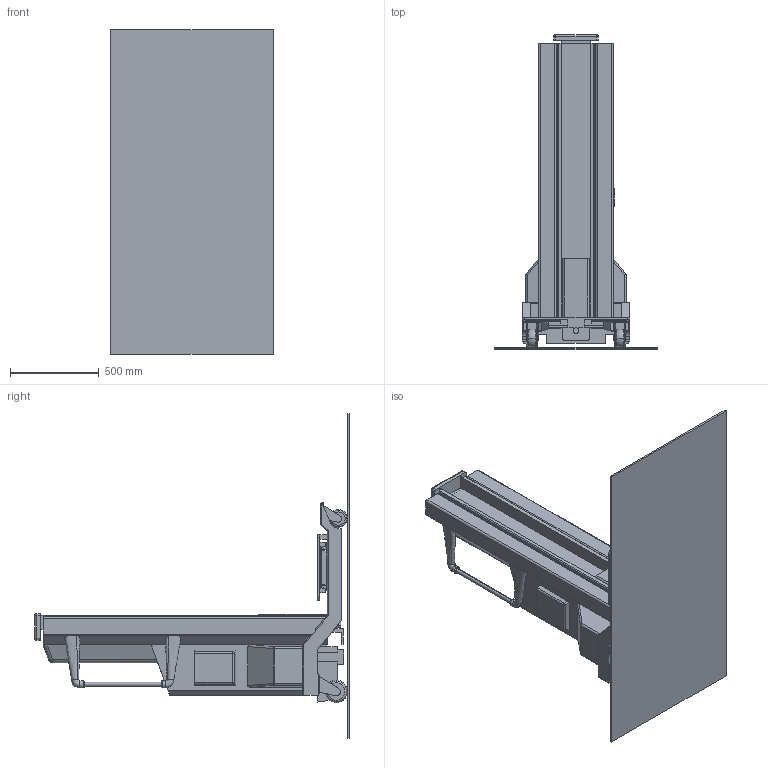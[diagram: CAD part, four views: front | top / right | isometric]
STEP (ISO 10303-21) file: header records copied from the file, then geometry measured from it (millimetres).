
FILE_DESCRIPTION (( 'STEP AP203' ), '1' );
FILE_NAME ('Simplified_SL-500X_Full_Down_Position_10-27-2023.STEP', '2023-10-27T22:13:18', ( '' ), ( '' ), 'SwSTEP 2.0', 'SolidWorks 2021', '' );
FILE_SCHEMA (( 'CONFIG_CONTROL_DESIGN' ));
Length unit declared in the file: millimetre
Products named in the file (12): RT-23177 Floor Tile, 36x72in; RT-23167 Assy, Simplified Base, SL500X; RT-23168 Simplified Base Frame, SL500X; RT-23172 Simplified Caster, 5inch; RT-23165 Simplified Inner Column, SL500X; Simplified_SL-500X_Full_Down_Position_10-27-2023; RT-23176 Assy, Simplified Side Loader Platform_Center; RT-23166 Simplified Outer Column, SL500X; RT-23171 Simplified Caster, 4inch; RT-23174 Platform Frame, Simplified, Side Loader; RT-23169 Simplified Sheet Metal and Covers, SL500X; RT-23175 Platform Surface, Simplified, Side Loader
Assembly tree (13 placements, depth 3):
  Simplified_SL-500X_Full_Down_Position_10-27-2023
    RT-23167 Assy, Simplified Base, SL500X
      RT-23168 Simplified Base Frame, SL500X
      RT-23172 Simplified Caster, 5inch  x2
      RT-23171 Simplified Caster, 4inch  x2
      RT-23177 Floor Tile, 36x72in
    RT-23166 Simplified Outer Column, SL500X
    RT-23165 Simplified Inner Column, SL500X
    RT-23176 Assy, Simplified Side Loader Platform_Center
      RT-23174 Platform Frame, Simplified, Side Loader
      RT-23175 Platform Surface, Simplified, Side Loader
    RT-23169 Simplified Sheet Metal and Covers, SL500X
Bounding box: 914.4 x 1772.4 x 1828.8 mm (x, y, z)
Volume: 237968788.5 mm3; surface area: 12081029.4 mm2
Topology: 11 solids, 11 shells, 570 faces, 1474 edges, 926 vertices
Faces by surface type: plane 344, cylinder 162, torus 32, sphere 24, bspline 8
Entity records: 18826 total; most frequent: CARTESIAN_POINT 4892, ORIENTED_EDGE 2652, DIRECTION 2628, EDGE_CURVE 1326, LINE 884, VECTOR 884, AXIS2_PLACEMENT_3D 872, VERTEX_POINT 838
